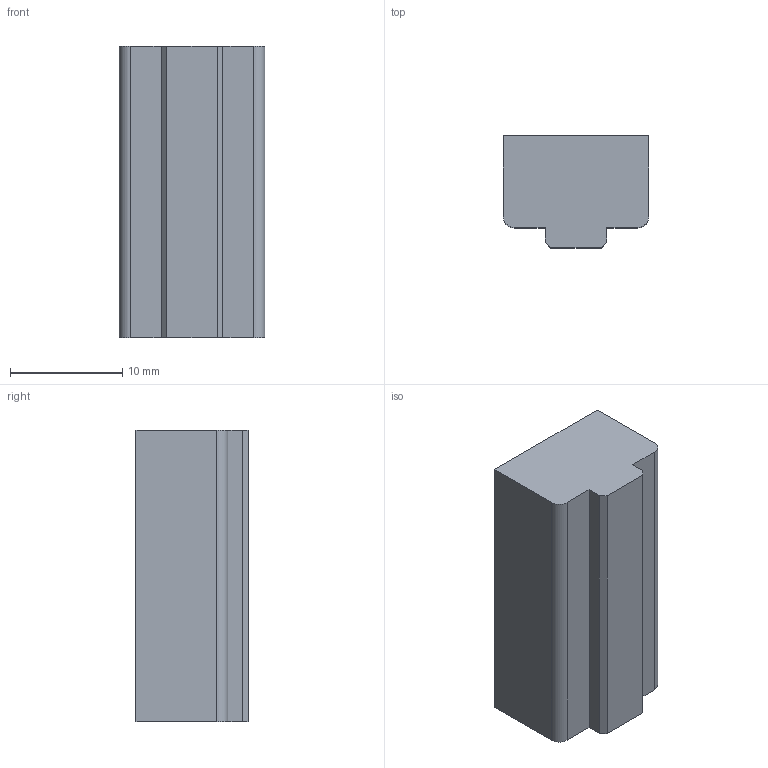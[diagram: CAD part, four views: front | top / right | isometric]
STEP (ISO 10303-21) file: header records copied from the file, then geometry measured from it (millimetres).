
FILE_DESCRIPTION (( 'STEP AP214' ), '1' );
FILE_NAME ('GZ21.16_V1定位压块.STEP', '2021-02-26T09:29:49', ( '微软中国' ), ( 'Microsoft' ), 'SwSTEP 2.0', 'SolidWorks 2017', '' );
FILE_SCHEMA (( 'AUTOMOTIVE_DESIGN' ));
Length unit declared in the file: millimetre
Products named in the file (1): GZ21.16_V1隅弇揤輸
Bounding box: 13 x 10 x 26 mm (x, y, z)
Volume: 2688.8 mm3; surface area: 1643.6 mm2
Topology: 1 solids, 1 shells, 22 faces, 56 edges, 34 vertices
Faces by surface type: plane 12, cylinder 6, cone 4
Entity records: 710 total; most frequent: DIRECTION 110, CARTESIAN_POINT 109, ORIENTED_EDGE 104, EDGE_CURVE 52, VECTOR 40, LINE 40, AXIS2_PLACEMENT_3D 35, VERTEX_POINT 34
